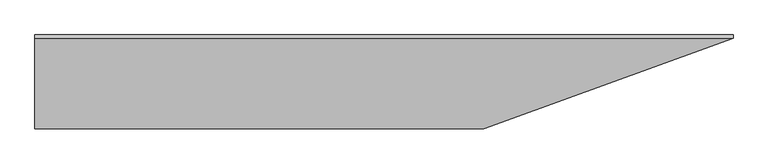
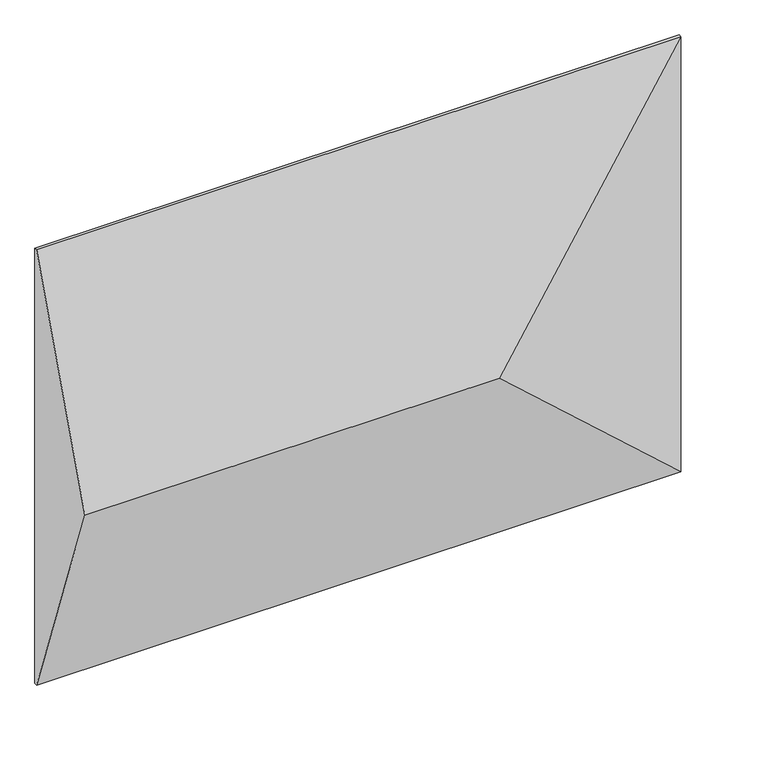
"""IFC4 building model written with IfcOpenShell, lengths in millimetres: proxy geometry, GRADIENT^TABLE 7_PYRAMID BASES-RIGHT TOP."""

from ifc_helpers import new_model, si_unit, origin, place, context, project, spatial, faceted_brep, source, transform, mapped, element, save


def generic_models_c5948c30(model_context):
    return source(origin(), model_context, "Body", "Brep", [
        faceted_brep([(2133.6, -255.1203185, -762.0), (3505.2, -255.1203185, -762.0), (4267.2, 22.225, 0.0), (2133.6, 22.225, 0.0), (2133.6, 22.225, -1524.0), (4267.2, 22.225, -1524.0), (2133.6, 31.75, -1524.0), (2133.6, 31.75, 0.0), (4267.2, 31.75, 0.0), (4267.2, 31.75, -1524.0)], [[[0, 1, 2, 3]], [[1, 0, 4, 5]], [[6, 7, 8, 9]], [[0, 3, 7, 6, 4]], [[2, 1, 5]], [[3, 2, 8, 7]], [[2, 5, 9, 8]], [[5, 4, 6, 9]]]),
    ])


if __name__ == "__main__":
    model = new_model("IFC4")
    model_context = context("Model", 3, world=origin())
    ifc_project = project(units=[si_unit("LENGTHUNIT", "METRE", prefix="MILLI")], contexts=[model_context])
    site = spatial("IfcSite", under=ifc_project)
    building = spatial("IfcBuilding", under=site)
    placement = place(None, origin())
    generic_models_shape = generic_models_c5948c30(model_context)
    element("IfcBuildingElementProxy", 1, Name="GRADIENT^TABLE 7_PYRAMID BASES-RIGHT TOP", ObjectType="GRADIENT^TABLE 7_PYRAMID BASES-RIGHT TOP", at=placement, inside=building, context=model_context, shape_type="MappedRepresentation", body=[
        mapped(generic_models_shape, transform((0.0, 0.0, 0.0), x_axis=(1.0, 0.0, 0.0), y_axis=(0.0, 1.0, 0.0), z_axis=(0.0, 0.0, 1.0))),
    ])
    save(model, "model.ifc")
